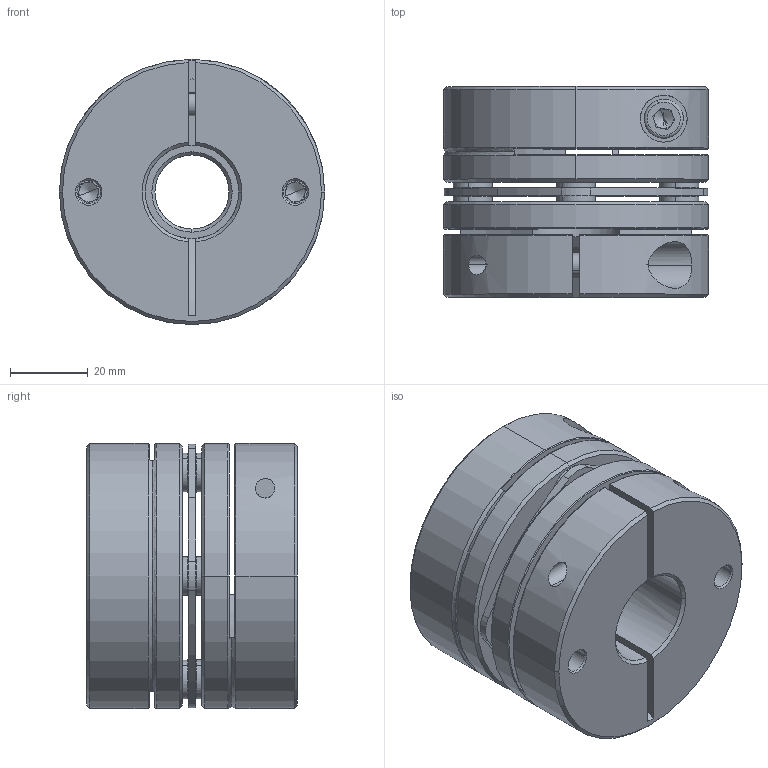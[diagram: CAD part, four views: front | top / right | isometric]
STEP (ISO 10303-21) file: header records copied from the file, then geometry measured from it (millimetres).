
FILE_DESCRIPTION (( 'STEP AP203' ), '1' );
FILE_NAME ('LD1-D68-19-24.STEP', '2021-10-26T07:55:35', ( '' ), ( '' ), 'SwSTEP 2.0', 'SolidWorks 2018', '' );
FILE_SCHEMA (( 'CONFIG_CONTROL_DESIGN' ));
Length unit declared in the file: millimetre
Products named in the file (2): LD1-D68-19-24; 錨璃101^LD1-D68
Assembly tree (1 placements, depth 2):
  LD1-D68-19-24
    錨璃101^LD1-D68
Bounding box: 68 x 54 x 68 mm (x, y, z)
Volume: 148564.2 mm3; surface area: 46643.7 mm2
Topology: 1 solids, 15 shells, 445 faces, 1059 edges, 650 vertices
Faces by surface type: cylinder 163, plane 138, cone 122, torus 22
Entity records: 13459 total; most frequent: CARTESIAN_POINT 2611, DIRECTION 2433, ORIENTED_EDGE 2086, EDGE_CURVE 1043, AXIS2_PLACEMENT_3D 988, VERTEX_POINT 650, CIRCLE 539, EDGE_LOOP 525
